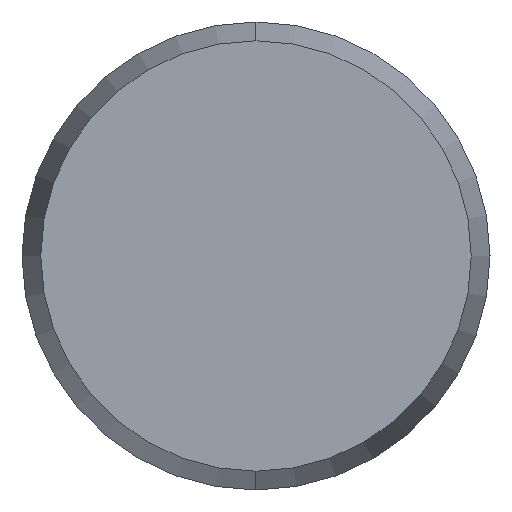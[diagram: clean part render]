
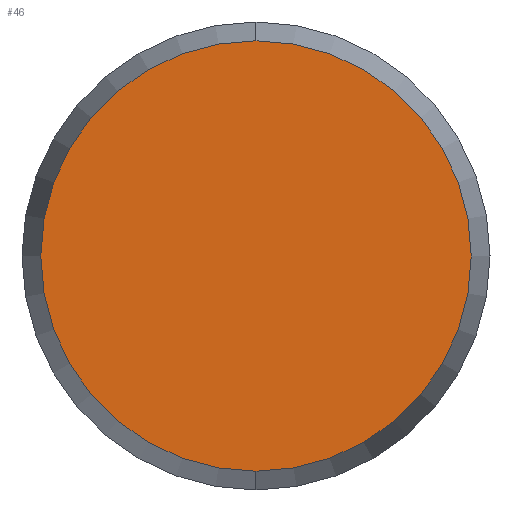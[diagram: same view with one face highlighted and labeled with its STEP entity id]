
A CAD part, left-side view. The second image highlights one B-rep face of the part: STEP entity #46.
In plain terms, the highlighted planar face has unit normal (-1, 0, 0).
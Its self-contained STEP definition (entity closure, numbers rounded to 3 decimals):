
#43 = EDGE_CURVE ( 'NONE', #54, #53, #157, .T. ) ;
#46 = ADVANCED_FACE ( 'NONE', ( #150 ), #149, .F. ) ;
#47 = EDGE_LOOP ( 'NONE', ( #48, #50 ) ) ;
#48 = ORIENTED_EDGE ( 'NONE', *, *, #52, .F. ) ;
#50 = ORIENTED_EDGE ( 'NONE', *, *, #43, .F. ) ;
#52 = EDGE_CURVE ( 'NONE', #53, #54, #143, .T. ) ;
#53 = VERTEX_POINT ( 'NONE', #139 ) ;
#54 = VERTEX_POINT ( 'NONE', #138 ) ;
#138 = CARTESIAN_POINT ( 'NONE',  ( -50., 0., -4.598 ) ) ;
#139 = CARTESIAN_POINT ( 'NONE',  ( -50., 0., 4.598 ) ) ;
#140 = DIRECTION ( 'NONE',  ( 0., 0., -1. ) ) ;
#141 = DIRECTION ( 'NONE',  ( 1., 0., 0. ) ) ;
#142 = AXIS2_PLACEMENT_3D ( 'NONE', #147, #141, #140 ) ;
#143 = CIRCLE ( 'NONE', #142, 4.598 ) ;
#144 = DIRECTION ( 'NONE',  ( 0., 0., -1. ) ) ;
#145 = DIRECTION ( 'NONE',  ( 1., 0., 0. ) ) ;
#146 = CARTESIAN_POINT ( 'NONE',  ( -50., 0., 0. ) ) ;
#147 = CARTESIAN_POINT ( 'NONE',  ( -50., 0., 0. ) ) ;
#148 = AXIS2_PLACEMENT_3D ( 'NONE', #146, #145, #144 ) ;
#149 = PLANE ( 'NONE',  #148 ) ;
#150 = FACE_OUTER_BOUND ( 'NONE', #47, .T. ) ;
#151 = DIRECTION ( 'NONE',  ( 0., 0., -1. ) ) ;
#152 = DIRECTION ( 'NONE',  ( 1., 0., 0. ) ) ;
#153 = CARTESIAN_POINT ( 'NONE',  ( -50., 0., 0. ) ) ;
#154 = AXIS2_PLACEMENT_3D ( 'NONE', #153, #152, #151 ) ;
#157 = CIRCLE ( 'NONE', #154, 4.598 ) ;
